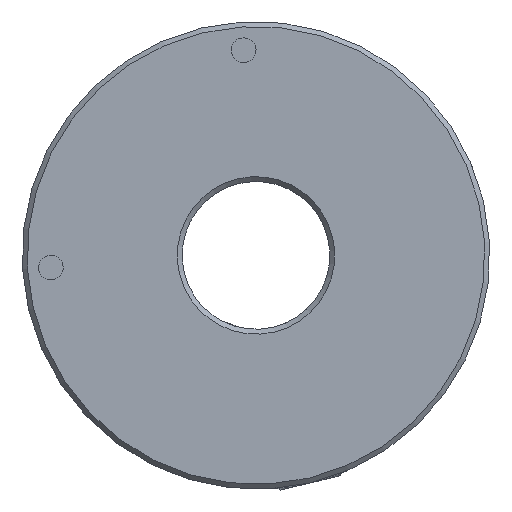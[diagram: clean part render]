
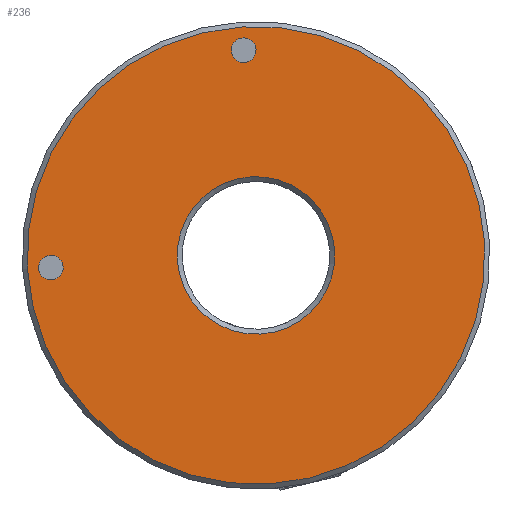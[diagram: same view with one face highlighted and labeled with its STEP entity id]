
A CAD part, front view. The second image highlights one B-rep face of the part: STEP entity #236.
In plain terms, the highlighted planar face has unit normal (0, -1, 0).
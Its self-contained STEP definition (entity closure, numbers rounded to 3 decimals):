
#90 = AXIS2_PLACEMENT_3D ( 'NONE', #1641, #1400, #464 ) ;
#154 = CIRCLE ( 'NONE', #476, 0.5 ) ;
#234 = EDGE_LOOP ( 'NONE', ( #1492 ) ) ;
#236 = ADVANCED_FACE ( 'NONE', ( #644, #1586, #627, #1410 ), #268, .F. ) ;
#268 = PLANE ( 'NONE',  #90 ) ;
#382 = DIRECTION ( 'NONE',  ( 0., -1., 0. ) ) ;
#437 = AXIS2_PLACEMENT_3D ( 'NONE', #1707, #382, #548 ) ;
#448 = VERTEX_POINT ( 'NONE', #889 ) ;
#452 = DIRECTION ( 'NONE',  ( 0., 1., 0. ) ) ;
#457 = AXIS2_PLACEMENT_3D ( 'NONE', #1012, #452, #1413 ) ;
#464 = DIRECTION ( 'NONE',  ( 0., 0., 1. ) ) ;
#476 = AXIS2_PLACEMENT_3D ( 'NONE', #750, #2338, #1301 ) ;
#518 = VERTEX_POINT ( 'NONE', #2357 ) ;
#548 = DIRECTION ( 'NONE',  ( 0., 0., 1. ) ) ;
#560 = EDGE_LOOP ( 'NONE', ( #2489 ) ) ;
#627 = FACE_OUTER_BOUND ( 'NONE', #1053, .T. ) ;
#643 = DIRECTION ( 'NONE',  ( 0., 1., 0. ) ) ;
#644 = FACE_BOUND ( 'NONE', #234, .T. ) ;
#750 = CARTESIAN_POINT ( 'NONE',  ( 0., 0., -8.35 ) ) ;
#848 = CIRCLE ( 'NONE', #1827, 0.5 ) ;
#889 = CARTESIAN_POINT ( 'NONE',  ( 0., 0., 3.2 ) ) ;
#1012 = CARTESIAN_POINT ( 'NONE',  ( 0., 0., 0. ) ) ;
#1030 = CIRCLE ( 'NONE', #457, 3.2 ) ;
#1053 = EDGE_LOOP ( 'NONE', ( #1697 ) ) ;
#1133 = EDGE_LOOP ( 'NONE', ( #2205 ) ) ;
#1178 = CARTESIAN_POINT ( 'NONE',  ( 0., 0., -7.85 ) ) ;
#1301 = DIRECTION ( 'NONE',  ( 0., 0., 1. ) ) ;
#1326 = VERTEX_POINT ( 'NONE', #1178 ) ;
#1400 = DIRECTION ( 'NONE',  ( 0., 1., 0. ) ) ;
#1410 = FACE_BOUND ( 'NONE', #560, .T. ) ;
#1413 = DIRECTION ( 'NONE',  ( 0., 0., 1. ) ) ;
#1492 = ORIENTED_EDGE ( 'NONE', *, *, #2133, .T. ) ;
#1575 = CIRCLE ( 'NONE', #437, 9.3 ) ;
#1586 = FACE_BOUND ( 'NONE', #1133, .T. ) ;
#1641 = CARTESIAN_POINT ( 'NONE',  ( -9.5, 0., 0. ) ) ;
#1675 = VERTEX_POINT ( 'NONE', #1693 ) ;
#1693 = CARTESIAN_POINT ( 'NONE',  ( -8.35, 0., 0.5 ) ) ;
#1697 = ORIENTED_EDGE ( 'NONE', *, *, #2399, .T. ) ;
#1707 = CARTESIAN_POINT ( 'NONE',  ( 0., 0., 0. ) ) ;
#1781 = EDGE_CURVE ( 'NONE', #448, #448, #1030, .T. ) ;
#1810 = CARTESIAN_POINT ( 'NONE',  ( -8.35, 0., 0. ) ) ;
#1827 = AXIS2_PLACEMENT_3D ( 'NONE', #1810, #643, #2169 ) ;
#2133 = EDGE_CURVE ( 'NONE', #1675, #1675, #848, .T. ) ;
#2169 = DIRECTION ( 'NONE',  ( 0., 0., 1. ) ) ;
#2205 = ORIENTED_EDGE ( 'NONE', *, *, #2424, .T. ) ;
#2338 = DIRECTION ( 'NONE',  ( 0., 1., 0. ) ) ;
#2357 = CARTESIAN_POINT ( 'NONE',  ( 0., 0., 9.3 ) ) ;
#2399 = EDGE_CURVE ( 'NONE', #518, #518, #1575, .T. ) ;
#2424 = EDGE_CURVE ( 'NONE', #1326, #1326, #154, .T. ) ;
#2489 = ORIENTED_EDGE ( 'NONE', *, *, #1781, .T. ) ;
